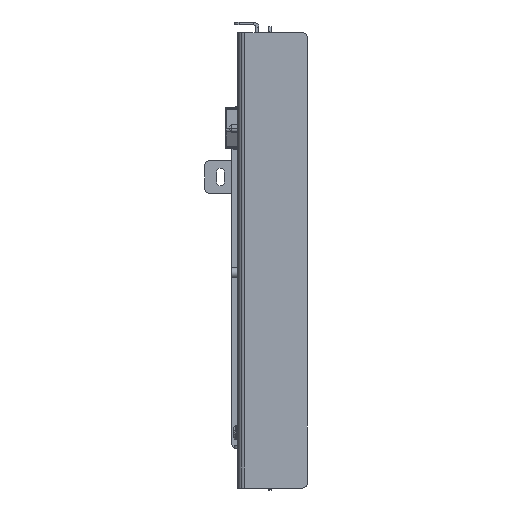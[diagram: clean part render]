
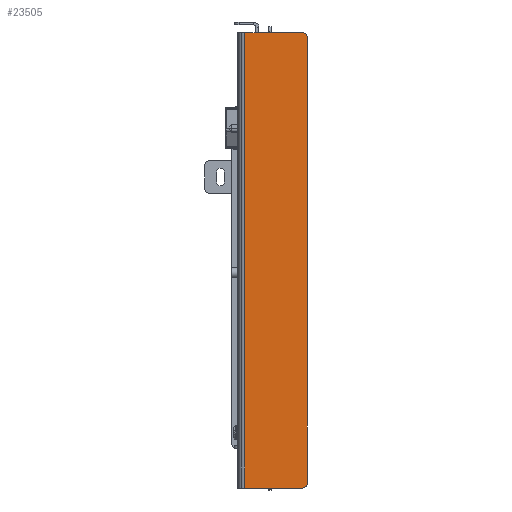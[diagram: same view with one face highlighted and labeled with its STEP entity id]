
A CAD part, front view. The second image highlights one B-rep face of the part: STEP entity #23505.
In plain terms, the highlighted planar face has unit normal (0, -1, 0).
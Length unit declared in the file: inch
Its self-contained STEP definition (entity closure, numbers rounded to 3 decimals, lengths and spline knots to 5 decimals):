
#556 = ORIENTED_EDGE ( 'NONE', *, *, #27057, .F. ) ;
#1475 = LINE ( 'NONE', #2570, #19870 ) ;
#1540 = VECTOR ( 'NONE', #29741, 39.37008 ) ;
#2508 = VERTEX_POINT ( 'NONE', #15101 ) ;
#2570 = CARTESIAN_POINT ( 'NONE',  ( 5.75, -0.097, 0.875 ) ) ;
#2586 = LINE ( 'NONE', #36674, #1540 ) ;
#3918 = EDGE_CURVE ( 'NONE', #2508, #19335, #2586, .T. ) ;
#4189 = EDGE_CURVE ( 'NONE', #4318, #16092, #29085, .T. ) ;
#4318 = VERTEX_POINT ( 'NONE', #38425 ) ;
#4458 = CARTESIAN_POINT ( 'NONE',  ( -5.625, -0.097, -0.875 ) ) ;
#4803 = VECTOR ( 'NONE', #39207, 39.37008 ) ;
#5768 = DIRECTION ( 'NONE',  ( 0., 0., -1. ) ) ;
#8700 = CARTESIAN_POINT ( 'NONE',  ( -5.75, -0.097, 0.698 ) ) ;
#9703 = DIRECTION ( 'NONE',  ( 0., -1., 0. ) ) ;
#10549 = CARTESIAN_POINT ( 'NONE',  ( 5.625, -0.097, -0.75 ) ) ;
#11152 = VERTEX_POINT ( 'NONE', #4458 ) ;
#12696 = VERTEX_POINT ( 'NONE', #30459 ) ;
#12846 = DIRECTION ( 'NONE',  ( 0., -1., 0. ) ) ;
#15101 = CARTESIAN_POINT ( 'NONE',  ( -5.75, -0.097, -0.75 ) ) ;
#16092 = VERTEX_POINT ( 'NONE', #42097 ) ;
#17801 = AXIS2_PLACEMENT_3D ( 'NONE', #38312, #25273, #5768 ) ;
#18242 = AXIS2_PLACEMENT_3D ( 'NONE', #29209, #9703, #32498 ) ;
#18989 = DIRECTION ( 'NONE',  ( 0., 0., -1. ) ) ;
#18999 = AXIS2_PLACEMENT_3D ( 'NONE', #10549, #12846, #38596 ) ;
#19335 = VERTEX_POINT ( 'NONE', #8700 ) ;
#19870 = VECTOR ( 'NONE', #18989, 39.37008 ) ;
#20519 = ORIENTED_EDGE ( 'NONE', *, *, #31287, .T. ) ;
#21382 = CARTESIAN_POINT ( 'NONE',  ( 5.75, -0.097, 0.698 ) ) ;
#23461 = VECTOR ( 'NONE', #24648, 39.37008 ) ;
#23505 = ADVANCED_FACE ( 'NONE', ( #26969 ), #41589, .T. ) ;
#24463 = LINE ( 'NONE', #21382, #23461 ) ;
#24471 = EDGE_LOOP ( 'NONE', ( #556, #29222, #39837, #20519, #29636, #25817 ) ) ;
#24648 = DIRECTION ( 'NONE',  ( -1., 0., 0. ) ) ;
#25273 = DIRECTION ( 'NONE',  ( 0., -1., 0. ) ) ;
#25817 = ORIENTED_EDGE ( 'NONE', *, *, #31546, .T. ) ;
#26010 = CIRCLE ( 'NONE', #18242, 0.125 ) ;
#26969 = FACE_OUTER_BOUND ( 'NONE', #24471, .T. ) ;
#27057 = EDGE_CURVE ( 'NONE', #4318, #11152, #39534, .T. ) ;
#29085 = CIRCLE ( 'NONE', #18999, 0.125 ) ;
#29209 = CARTESIAN_POINT ( 'NONE',  ( -5.625, -0.097, -0.75 ) ) ;
#29222 = ORIENTED_EDGE ( 'NONE', *, *, #4189, .T. ) ;
#29636 = ORIENTED_EDGE ( 'NONE', *, *, #3918, .F. ) ;
#29741 = DIRECTION ( 'NONE',  ( 0., 0., 1. ) ) ;
#30459 = CARTESIAN_POINT ( 'NONE',  ( 5.75, -0.097, 0.698 ) ) ;
#31287 = EDGE_CURVE ( 'NONE', #12696, #19335, #24463, .T. ) ;
#31546 = EDGE_CURVE ( 'NONE', #2508, #11152, #26010, .T. ) ;
#32498 = DIRECTION ( 'NONE',  ( 0., 0., -1. ) ) ;
#35916 = CARTESIAN_POINT ( 'NONE',  ( -5.75, -0.097, -0.875 ) ) ;
#36674 = CARTESIAN_POINT ( 'NONE',  ( -5.75, -0.097, 0.875 ) ) ;
#38312 = CARTESIAN_POINT ( 'NONE',  ( 0., -0.097, 0. ) ) ;
#38425 = CARTESIAN_POINT ( 'NONE',  ( 5.625, -0.097, -0.875 ) ) ;
#38596 = DIRECTION ( 'NONE',  ( 0., 0., -1. ) ) ;
#39207 = DIRECTION ( 'NONE',  ( -1., 0., 0. ) ) ;
#39534 = LINE ( 'NONE', #35916, #4803 ) ;
#39837 = ORIENTED_EDGE ( 'NONE', *, *, #42074, .F. ) ;
#41589 = PLANE ( 'NONE',  #17801 ) ;
#42074 = EDGE_CURVE ( 'NONE', #12696, #16092, #1475, .T. ) ;
#42097 = CARTESIAN_POINT ( 'NONE',  ( 5.75, -0.097, -0.75 ) ) ;
